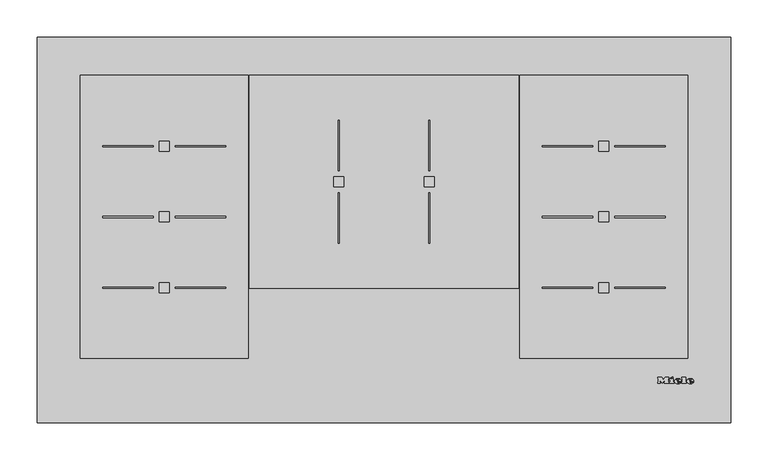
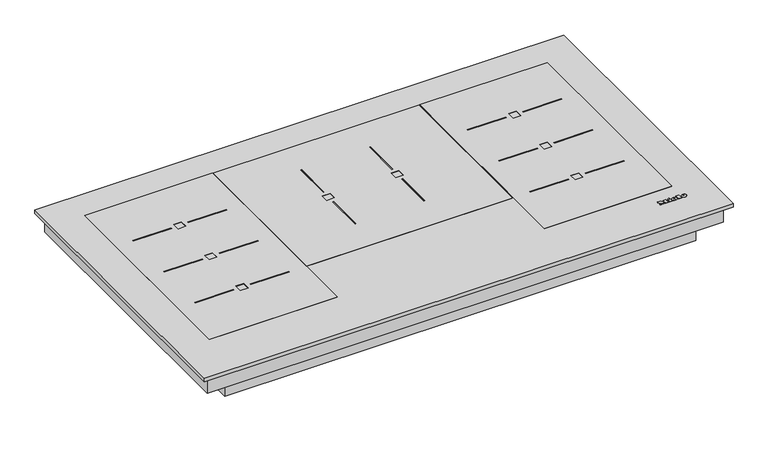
"""IFC4 building model written with IfcOpenShell, lengths in millimetres: proxy geometry, 11218230_IB_KM7999FL : 26799970_IB_11218230_KM7999FL."""

import ifcopenshell
import ifcopenshell.guid

model = None  # the IFC model being written
_history = None  # IfcOwnerHistory: only IFC2X3 demands one
_inside = {}  # id of a spatial element -> (the spatial element, [elements in it])
_under = {}  # id of a project, library or spatial element -> (it, [spatial elements below it])
_declared = {}  # id of a project -> (the project, [libraries it declares])
_typed = {}  # id of a type object -> (the type object, [elements of that type])
_made_of = {}  # id of a material, layer set ... -> (it, [elements and type objects made of it])


def new_model(schema):
    """Start an empty IFC model of exactly this schema.

    Asked for "IFC4X3", IfcOpenShell would pick the latest addendum, in which some entities
    have other attributes; the version numbers below select the first issue.
    IFC2X3 requires an IfcOwnerHistory on every rooted entity: one is made here for all.
    """
    global model, _history
    if schema == "IFC4X3":
        model = ifcopenshell.file(schema_version=(4, 3, 0, 0))
    else:
        model = ifcopenshell.file(schema=schema)
    _inside.clear()
    _under.clear()
    _declared.clear()
    _typed.clear()
    _made_of.clear()
    _history = None
    if model.schema == "IFC2X3":
        org = make("IfcOrganization", Name="unknown")
        user = make(
            "IfcPersonAndOrganization",
            ThePerson=make("IfcPerson", FamilyName="unknown"),
            TheOrganization=org,
        )
        app = make(
            "IfcApplication",
            ApplicationDeveloper=org,
            Version="unknown",
            ApplicationFullName="unknown",
            ApplicationIdentifier="unknown",
        )
        _history = make(
            "IfcOwnerHistory",
            OwningUser=user,
            OwningApplication=app,
            ChangeAction="ADDED",
            CreationDate=0,
        )
    return model


def make(cls, **values):
    """One entity of the class cls with the attributes given. An attribute that is None is left unset."""
    return model.create_entity(
        cls, **{name: value for name, value in values.items() if value is not None}
    )


def rooted(cls, **values):
    """An entity with a GlobalId (a new one), such as an element, a storey or a relation."""
    return make(cls, GlobalId=ifcopenshell.guid.new(), OwnerHistory=_history, **values)


def si_unit(unit_type, name, prefix=None):
    """IfcSIUnit, for example si_unit("LENGTHUNIT", "METRE", prefix="MILLI")."""
    return make("IfcSIUnit", UnitType=unit_type, Prefix=prefix, Name=name)


def assignment(units):
    """IfcUnitAssignment: the units of a project."""
    return None if units is None else make("IfcUnitAssignment", Units=units)


def point(xyz):
    """IfcCartesianPoint."""
    return None if xyz is None else make("IfcCartesianPoint", Coordinates=xyz)


def direction(xyz):
    """IfcDirection."""
    return None if xyz is None else make("IfcDirection", DirectionRatios=xyz)


def frame(location, z_axis=None, x_axis=None):
    """IfcAxis2Placement3D, a coordinate frame: its origin and axes. An axis left out is left unset."""
    return make(
        "IfcAxis2Placement3D",
        Location=point(location),
        Axis=direction(z_axis),
        RefDirection=direction(x_axis),
    )


def frame_2d(location, x_axis=None):
    """IfcAxis2Placement2D, a coordinate frame in the plane: its origin and x axis."""
    return make(
        "IfcAxis2Placement2D", Location=point(location), RefDirection=direction(x_axis)
    )


def origin():
    """The frame at (0, 0, 0) with its axes left unset."""
    return frame((0.0, 0.0, 0.0))


def origin_with_axes():
    """The frame at (0, 0, 0) with the z axis (0, 0, 1) and the x axis (1, 0, 0) written out."""
    return frame((0.0, 0.0, 0.0), z_axis=(0.0, 0.0, 1.0), x_axis=(1.0, 0.0, 0.0))


def place(relative_to, where):
    """IfcLocalPlacement: puts the frame where relative to a parent placement (None: the world)."""
    return make(
        "IfcLocalPlacement", PlacementRelTo=relative_to, RelativePlacement=where
    )


def context(
    kind, dimensions, precision=None, world=None, true_north=None, identifier=None
):
    """IfcGeometricRepresentationContext, for example the 3D "Model" context."""
    return make(
        "IfcGeometricRepresentationContext",
        ContextIdentifier=identifier,
        ContextType=kind,
        CoordinateSpaceDimension=dimensions,
        Precision=precision,
        WorldCoordinateSystem=world,
        TrueNorth=true_north,
    )


def project(units=None, contexts=None):
    """IfcProject with its units and contexts."""
    return rooted(
        "IfcProject",
        Name="project",
        RepresentationContexts=contexts,
        UnitsInContext=assignment(units),
    )


def spatial(cls, under=None, at=None, **own):
    """A site, building, storey or space (cls), placed at a placement, below another one or the project."""
    s = rooted(cls, ObjectPlacement=at, **own)
    if under is not None:
        _under.setdefault(under.id(), (under, []))[1].append(s)
    return s


def polyline(points):
    """IfcPolyline through the points."""
    return make("IfcPolyline", Points=[point(p) for p in points])


def circle_curve(where, radius):
    """IfcCircle in the frame where."""
    return make("IfcCircle", Position=where, Radius=radius)


def ellipse_curve(where, semi_axis1, semi_axis2):
    """IfcEllipse in the frame where."""
    return make(
        "IfcEllipse", Position=where, SemiAxis1=semi_axis1, SemiAxis2=semi_axis2
    )


def trimmed(basis, trim1, trim2, sense, master):
    """IfcTrimmedCurve: the piece of a basis curve between two trims."""
    return make(
        "IfcTrimmedCurve",
        BasisCurve=basis,
        Trim1=trim1,
        Trim2=trim2,
        SenseAgreement=sense,
        MasterRepresentation=master,
    )


def segment(curve, same_sense, transition):
    """IfcCompositeCurveSegment."""
    return make(
        "IfcCompositeCurveSegment",
        Transition=transition,
        SameSense=same_sense,
        ParentCurve=curve,
    )


def composite_curve(segments, self_intersect=None):
    """IfcCompositeCurve: segments joined end to end."""
    return make("IfcCompositeCurve", Segments=segments, SelfIntersect=self_intersect)


def outline(outer, holes=None, kind="AREA"):
    """IfcArbitraryClosedProfileDef: a profile drawn as a closed curve; with holes, ...WithVoids."""
    if holes is None:
        return make("IfcArbitraryClosedProfileDef", ProfileType=kind, OuterCurve=outer)
    return make(
        "IfcArbitraryProfileDefWithVoids",
        ProfileType=kind,
        OuterCurve=outer,
        InnerCurves=holes,
    )


def extrude(swept, where, along, depth):
    """IfcExtrudedAreaSolid: the profile swept, set in the frame where, extruded along a direction by depth."""
    return make(
        "IfcExtrudedAreaSolid",
        SweptArea=swept,
        Position=where,
        ExtrudedDirection=direction(along),
        Depth=depth,
    )


def faces_of(points, faces, orient=None, outer=None):
    """IfcFace entities. A face is a list of loops; a loop is a list of indices into points, from 0.

    orient and outer hold one flag for each loop. By default every Orientation is true, the
    first loop of a face is its IfcFaceOuterBound and the others are IfcFaceBound.
    """
    made = []
    for i, loops in enumerate(faces):
        bounds = []
        for j, loop in enumerate(loops):
            is_outer = j == 0 if outer is None else outer[i][j]
            bounds.append(
                make(
                    "IfcFaceOuterBound" if is_outer else "IfcFaceBound",
                    Bound=make("IfcPolyLoop", Polygon=[points[k] for k in loop]),
                    Orientation=True if orient is None else orient[i][j],
                )
            )
        made.append(make("IfcFace", Bounds=bounds))
    return made


def faceted_brep(points, faces, orient=None, outer=None, voids=None):
    """IfcFacetedBrep: a solid bounded by flat faces; with voids (closed shells), ...WithVoids."""
    shared = [point(p) for p in points]
    hull = make("IfcClosedShell", CfsFaces=faces_of(shared, faces, orient, outer))
    if voids is None:
        return make("IfcFacetedBrep", Outer=hull)
    return make(
        "IfcFacetedBrepWithVoids",
        Outer=hull,
        Voids=[
            make(cls, CfsFaces=faces_of(shared, fs, o, b)) for cls, fs, o, b in voids
        ],
    )


def shape(context_of_items, identifier, shape_type, items):
    """IfcShapeRepresentation: the items that make up one representation, for example the "Body"."""
    return make(
        "IfcShapeRepresentation",
        ContextOfItems=context_of_items,
        RepresentationIdentifier=identifier,
        RepresentationType=shape_type,
        Items=items,
    )


def source(mapping_origin, context_of_items, identifier, shape_type, items):
    """IfcRepresentationMap: a shape defined once, which mapped items show again and again."""
    return make(
        "IfcRepresentationMap",
        MappingOrigin=mapping_origin,
        MappedRepresentation=shape(context_of_items, identifier, shape_type, items),
    )


def transform(
    local_origin,
    x_axis=None,
    y_axis=None,
    z_axis=None,
    scale=None,
    scale2=None,
    scale3=None,
    uniform=True,
):
    """IfcCartesianTransformationOperator3D, or its non-uniform kind. x_axis, y_axis, z_axis: its Axis1, 2, 3."""
    if uniform:
        return make(
            "IfcCartesianTransformationOperator3D",
            Axis1=direction(x_axis),
            Axis2=direction(y_axis),
            LocalOrigin=point(local_origin),
            Scale=scale,
            Axis3=direction(z_axis),
        )
    return make(
        "IfcCartesianTransformationOperator3DnonUniform",
        Axis1=direction(x_axis),
        Axis2=direction(y_axis),
        LocalOrigin=point(local_origin),
        Scale=scale,
        Axis3=direction(z_axis),
        Scale2=scale2,
        Scale3=scale3,
    )


def mapped(mapping_source, mapping_target):
    """IfcMappedItem: shows the shape of a source again, moved by a transform."""
    return make(
        "IfcMappedItem", MappingSource=mapping_source, MappingTarget=mapping_target
    )


def made_of(thing, what):
    """Note that an element or type object is made of a material, layer set ...; save() writes the relation."""
    if what is not None:
        _made_of.setdefault(what.id(), (what, []))[1].append(thing)
    return thing


def element(
    cls,
    number,
    at=None,
    inside=None,
    cuts=None,
    type_object=None,
    material=None,
    context=None,
    identifier="Body",
    shape_type=None,
    held_by="IfcProductDefinitionShape",
    body=None,
    shapes=None,
    **own,
):
    """One element of the class cls, such as IfcWall. Its Tag is "e" and its number.

    at: its placement. inside: the storey or other place that contains it. cuts: it is an
    opening in that element (IfcRelVoidsElement). A single representation is given by context,
    identifier, shape_type and body (its items); several are given by shapes. held_by: the class
    of the entity that holds the representations. save() writes the other relations.
    """
    e = rooted(cls, Tag="e%d" % number, ObjectPlacement=at, **own)
    if body is not None:
        shapes = [shape(context, identifier, shape_type, body)]
    if shapes is not None:
        e.Representation = make(held_by, Representations=shapes)
    if inside is not None:
        _inside.setdefault(inside.id(), (inside, []))[1].append(e)
    if cuts is not None:
        rooted(
            "IfcRelVoidsElement", RelatingBuildingElement=cuts, RelatedOpeningElement=e
        )
    if type_object is not None:
        _typed.setdefault(type_object.id(), (type_object, []))[1].append(e)
    return made_of(e, material)


def aggregate(whole, parts):
    """IfcRelAggregates: a whole, such as a stair, and the parts it consists of."""
    return rooted("IfcRelAggregates", RelatingObject=whole, RelatedObjects=parts)


def save(model, path):
    """Write the relations noted so far, then the file.

    IfcRelAggregates (storeys below a building ...), IfcRelContainedInSpatialStructure (elements
    in a storey), IfcRelDefinesByType, IfcRelAssociatesMaterial and IfcRelDeclares: one each for
    every whole, place, type object, material and project.
    """
    for whole, parts in _under.values():
        aggregate(whole, parts)
    for where, things in _inside.values():
        rooted(
            "IfcRelContainedInSpatialStructure",
            RelatedElements=things,
            RelatingStructure=where,
        )
    for kind, things in _typed.values():
        rooted("IfcRelDefinesByType", RelatedObjects=things, RelatingType=kind)
    for what, things in _made_of.values():
        rooted("IfcRelAssociatesMaterial", RelatedObjects=things, RelatingMaterial=what)
    for by, libraries in _declared.values():
        rooted("IfcRelDeclares", RelatingContext=by, RelatedDefinitions=libraries)
    model.write(path)


def plane_surface(at):
    """IfcPlane: the flat surface through the origin of the frame at, square to its z axis."""
    return make("IfcPlane", Position=at)


def cylinder_surface(at, radius):
    """IfcCylindricalSurface: all points at the distance radius from the z axis of the frame at."""
    return make("IfcCylindricalSurface", Position=at, Radius=radius)


def revolved_surface(curve, axis_point, axis_direction):
    """IfcSurfaceOfRevolution: the curve turned about the line through axis_point along axis_direction."""
    return make(
        "IfcSurfaceOfRevolution",
        SweptCurve=make("IfcArbitraryOpenProfileDef", ProfileType="CURVE", Curve=curve),
        AxisPosition=make("IfcAxis1Placement", Location=point(axis_point), Axis=direction(axis_direction)),
    )


def extruded_surface(curve, direction_of_extrusion, depth):
    """IfcSurfaceOfLinearExtrusion: the curve pushed along a direction by depth."""
    return make(
        "IfcSurfaceOfLinearExtrusion",
        SweptCurve=make("IfcArbitraryOpenProfileDef", ProfileType="CURVE", Curve=curve),
        ExtrudedDirection=direction(direction_of_extrusion),
        Depth=depth,
    )


def advanced_brep(points, edges, surfaces, faces):
    """IfcAdvancedBrep: a solid bounded by faces that lie on surfaces and meet in shared edges.

    An edge is (start, end): straight between two places in points (the first is 0);
    or (start, end, curve); or (start, end, curve, False) where it runs against its curve.
    A face is (place in surfaces, loops), or (place, loops, False) where it looks against
    its surface's normal. A loop lists edges by number (the first is 1), with a minus sign
    where the edge is run from its end to its start. The first loop is the outer one.
    """
    corners = [point(p) for p in points]
    vertices = [make("IfcVertexPoint", VertexGeometry=c) for c in corners]
    made = []
    for start, end, *more in edges:
        made.append(
            make(
                "IfcEdgeCurve",
                EdgeStart=vertices[start],
                EdgeEnd=vertices[end],
                EdgeGeometry=more[0] if more else make("IfcPolyline", Points=[corners[start], corners[end]]),
                SameSense=more[1] if len(more) > 1 else True,
            )
        )
    hull = []
    for where, loops, *sense in faces:
        bounds = []
        for j, loop in enumerate(loops):
            ring = [make("IfcOrientedEdge", EdgeElement=made[abs(k) - 1], Orientation=k > 0) for k in loop]
            bounds.append(
                make(
                    "IfcFaceOuterBound" if j == 0 else "IfcFaceBound",
                    Bound=make("IfcEdgeLoop", EdgeList=ring),
                    Orientation=True,
                )
            )
        hull.append(make("IfcAdvancedFace", Bounds=bounds, FaceSurface=surfaces[where], SameSense=sense[0] if sense else True))
    return make("IfcAdvancedBrep", Outer=make("IfcClosedShell", CfsFaces=hull))


def specialty_equipment_02190315(model_context):
    return source(origin(), model_context, "Body", "SolidModel", [
        advanced_brep(
        [(412.46, 54.6948833, 6.4802537), (412.46, 55.5028828, 6.4811551), (417.812, 55.5028828, 6.4811551), (408.5, 55.5028828, 6.4811551), (410.7, 52.7988845, 6.4781386), (417.676, 54.6948833, 6.4802537), (415.26, 54.6948833, 6.4802537), (413.356, 53.7988838, 6.4792542), (412.46, 56.5268821, 6.4822974), (412.46, 57.3988816, 6.4832701), (413.828, 57.3988816, 6.4832701), (413.828, 56.5268821, 6.4822974), (412.46, 54.6959988, 5.4802543), (413.356, 53.7999994, 5.4792548), (415.26, 54.6959988, 5.4802543), (417.676, 54.6959988, 5.4802543), (410.7, 52.8, 5.4781393), (408.5, 55.5039983, 5.4811557), (417.812, 55.5039983, 5.4811557), (412.46, 55.5039983, 5.4811557), (412.46, 56.5279977, 5.482298), (413.828, 56.5279977, 5.482298), (413.828, 57.3999971, 5.4832707), (412.46, 57.3999971, 5.4832707)],
        [
            (0, 1),
            (1, 2),
            (2, 3, ellipse_curve(frame((413.156, 55.5028828, 6.4811551), z_axis=(0.0, -0.0011155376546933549, 0.9999993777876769), x_axis=(-1.0, 0.0, 0.0)), 4.656, 3.848)),
            (3, 4, circle_curve(frame((411.5960436, 55.7748826, 6.4814585), z_axis=(0.0, -0.0011155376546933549, 0.9999993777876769), x_axis=(0.0, -0.9999993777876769, -0.0011155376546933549)), 3.1079688)),
            (4, 5, circle_curve(frame((413.0627936, 57.8868813, 6.4838145), z_axis=(0.0, -0.0011155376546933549, 0.9999993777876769), x_axis=(0.0, -0.9999993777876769, -0.0011155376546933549)), 5.6098607)),
            (5, 6),
            (6, 7, circle_curve(frame((413.7470588, 55.4388828, 6.4810837), z_axis=(0.0, 0.0011155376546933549, -0.9999993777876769), x_axis=(0.0, -0.9999993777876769, -0.0011155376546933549)), 1.6859795)),
            (7, 0, circle_curve(frame((413.356, 54.6948833, 6.4802537), z_axis=(0.0, 0.0011155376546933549, -0.9999993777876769), x_axis=(0.0, -0.9999993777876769, -0.0011155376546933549)), 0.896)),
            (8, 9),
            (9, 10, circle_curve(frame((413.144, 57.3988816, 6.4832701), z_axis=(0.0, 0.0011155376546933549, -0.9999993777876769), x_axis=(0.0, -0.9999993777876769, -0.0011155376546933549)), 0.684)),
            (10, 11),
            (11, 8),
            (12, 13, circle_curve(frame((413.356, 54.6959988, 5.4802543), z_axis=(0.0, -0.0011155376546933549, 0.9999993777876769), x_axis=(0.0, -0.9999993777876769, -0.0011155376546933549)), 0.896)),
            (13, 14, circle_curve(frame((413.7470588, 55.4399984, 5.4810843), z_axis=(0.0, -0.0011155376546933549, 0.9999993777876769), x_axis=(0.0, -0.9999993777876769, -0.0011155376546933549)), 1.6859795)),
            (14, 15),
            (15, 16, circle_curve(frame((413.0627936, 57.8879968, 5.4838151), z_axis=(0.0, 0.0011155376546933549, -0.9999993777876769), x_axis=(0.0, -0.9999993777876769, -0.0011155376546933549)), 5.6098607)),
            (16, 17, circle_curve(frame((411.5960436, 55.7759981, 5.4814591), z_axis=(0.0, 0.0011155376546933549, -0.9999993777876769), x_axis=(0.0, -0.9999993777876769, -0.0011155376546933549)), 3.1079688)),
            (17, 18, ellipse_curve(frame((413.156, 55.5039983, 5.4811557), z_axis=(0.0, 0.0011155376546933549, -0.9999993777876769), x_axis=(-1.0, 0.0, 0.0)), 4.656, 3.848)),
            (18, 19),
            (19, 12),
            (20, 21),
            (21, 22),
            (22, 23, circle_curve(frame((413.144, 57.3999971, 5.4832707), z_axis=(0.0, -0.0011155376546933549, 0.9999993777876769), x_axis=(0.0, -0.9999993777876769, -0.0011155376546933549)), 0.684)),
            (23, 20),
            (0, 12),
            (19, 1),
            (18, 2),
            (5, 15),
            (14, 6),
            (17, 3),
            (13, 7),
            (16, 4),
            (8, 20),
            (23, 9),
            (22, 10),
            (21, 11),
        ],
        [
            plane_surface(frame((412.46, 55.5028828, 6.4811551), z_axis=(0.0, -0.0011155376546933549, 0.9999993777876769), x_axis=(0.0, 0.9999993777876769, 0.0011155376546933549))),
            plane_surface(frame((412.46, 55.5039983, 5.4811557), z_axis=(0.0, 0.0011155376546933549, -0.9999993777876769), x_axis=(0.0, -0.9999993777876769, -0.0011155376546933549))),
            plane_surface(frame((412.46, 54.6948833, 6.4802537), z_axis=(1.0000000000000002, 0.0, 0.0), x_axis=(0.0, 0.001115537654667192, -0.999999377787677))),
            plane_surface(frame((412.46, 55.5028828, 6.4811551), z_axis=(0.0, -0.999999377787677, -0.001115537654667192), x_axis=(0.0, 0.001115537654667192, -0.999999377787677))),
            plane_surface(frame((417.676, 54.6948833, 6.4802537), z_axis=(0.0, 0.999999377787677, 0.001115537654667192), x_axis=(0.0, 0.001115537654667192, -0.999999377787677))),
            extruded_surface(trimmed(ellipse_curve(frame((413.156, 55.5051139, 4.4811563), z_axis=(0.0, -0.0011155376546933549, 0.9999993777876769), x_axis=(-1.0, 0.0, 0.0)), 4.656, 3.848), [point((417.812, 55.5051139, 4.4811563))], [point((408.5, 55.5051139, 4.4811563))], True, "CARTESIAN"), (0.0, -0.001115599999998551, 0.9999994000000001), 1.00000002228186),
            revolved_surface(polyline([(413.7470588, 53.75401994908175, 5.479203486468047), (413.7470588, 53.75290441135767, 6.4792029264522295)]), (413.7470588, 55.4399984, 5.4810843), (0.0, 0.0011155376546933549, -0.9999993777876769)),
            revolved_surface(polyline([(413.356, 53.79999935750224, 5.479254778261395), (413.356, 53.79888381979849, 6.479254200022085)]), (413.356, 54.6959988, 5.4802543), (0.0, 0.0011155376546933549, -0.9999993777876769)),
            cylinder_surface(frame((411.5960436, 55.7759981, 5.4814591), z_axis=(0.0, -0.0011155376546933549, 0.9999993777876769), x_axis=(0.0, -0.9999993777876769, -0.0011155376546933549)), 3.1079688),
            cylinder_surface(frame((413.0627936, 57.8879968, 5.4838151), z_axis=(0.0, -0.0011155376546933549, 0.9999993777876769), x_axis=(0.0, -0.9999993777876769, -0.0011155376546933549)), 5.6098607),
            plane_surface(frame((412.46, 56.5268821, 6.4822974), z_axis=(1.0000000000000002, 0.0, 0.0), x_axis=(0.0, 0.001115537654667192, -0.999999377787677))),
            revolved_surface(polyline([(413.144, 56.71599752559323, 5.48250767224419), (413.144, 56.714881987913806, 6.482507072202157)]), (413.144, 57.3999971, 5.4832707), (0.0, 0.0011155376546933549, -0.9999993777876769)),
            plane_surface(frame((413.828, 57.3988816, 6.4832701), z_axis=(-1.0000000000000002, 0.0, 0.0), x_axis=(0.0, 0.001115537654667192, -0.999999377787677))),
            plane_surface(frame((413.828, 56.5268821, 6.4822974), z_axis=(0.0, 0.999999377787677, 0.001115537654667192), x_axis=(0.0, 0.001115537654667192, -0.999999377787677))),
        ],
        [
            (0, [[1, 2, 3, 4, 5, 6, 7, 8], [9, 10, 11, 12]]),
            (1, [[13, 14, 15, 16, 17, 18, 19, 20], [21, 22, 23, 24]]),
            (2, [[-1, 25, -20, 26]]),
            (3, [[-2, -26, -19, 27]]),
            (4, [[-6, 28, -15, 29]]),
            (5, [[-3, -27, -18, 30]]),
            (6, [[-7, -29, -14, 31]]),
            (7, [[-8, -31, -13, -25]]),
            (8, [[-4, -30, -17, 32]]),
            (9, [[-5, -32, -16, -28]]),
            (10, [[-9, 33, -24, 34]]),
            (11, [[-10, -34, -23, 35]]),
            (12, [[-11, -35, -22, 36]]),
            (13, [[-12, -36, -21, -33]]),
        ],
    ),
        advanced_brep(
        [(395.764, 54.6948833, 6.4802537), (395.764, 55.5028828, 6.4811551), (401.116, 55.5028828, 6.4811551), (391.804, 55.5028828, 6.4811551), (394.004, 52.7988845, 6.4781386), (400.98, 54.6948833, 6.4802537), (398.564, 54.6948833, 6.4802537), (396.66, 53.7988838, 6.4792542), (395.764, 56.5268821, 6.4822974), (395.764, 57.3988816, 6.4832701), (397.132, 57.3988816, 6.4832701), (397.132, 56.5268821, 6.4822974), (395.764, 54.6959988, 5.4802543), (396.66, 53.7999994, 5.4792548), (398.564, 54.6959988, 5.4802543), (400.98, 54.6959988, 5.4802543), (394.004, 52.8, 5.4781393), (391.804, 55.5039983, 5.4811557), (401.116, 55.5039983, 5.4811557), (395.764, 55.5039983, 5.4811557), (395.764, 56.5279977, 5.482298), (397.132, 56.5279977, 5.482298), (397.132, 57.3999971, 5.4832707), (395.764, 57.3999971, 5.4832707)],
        [
            (0, 1),
            (1, 2),
            (2, 3, ellipse_curve(frame((396.46, 55.5028828, 6.4811551), z_axis=(0.0, -0.0011155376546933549, 0.9999993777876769), x_axis=(-1.0, 0.0, 0.0)), 4.656, 3.848)),
            (3, 4, circle_curve(frame((394.9000436, 55.7748826, 6.4814585), z_axis=(0.0, -0.0011155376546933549, 0.9999993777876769), x_axis=(0.0, -0.9999993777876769, -0.0011155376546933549)), 3.1079688)),
            (4, 5, circle_curve(frame((396.3667936, 57.8868813, 6.4838145), z_axis=(0.0, -0.0011155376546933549, 0.9999993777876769), x_axis=(0.0, -0.9999993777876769, -0.0011155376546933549)), 5.6098607)),
            (5, 6),
            (6, 7, circle_curve(frame((397.0510588, 55.4388828, 6.4810837), z_axis=(0.0, 0.0011155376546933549, -0.9999993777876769), x_axis=(0.0, -0.9999993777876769, -0.0011155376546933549)), 1.6859795)),
            (7, 0, circle_curve(frame((396.66, 54.6948833, 6.4802537), z_axis=(0.0, 0.0011155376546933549, -0.9999993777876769), x_axis=(0.0, -0.9999993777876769, -0.0011155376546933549)), 0.896)),
            (8, 9),
            (9, 10, circle_curve(frame((396.448, 57.3988816, 6.4832701), z_axis=(0.0, 0.0011155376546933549, -0.9999993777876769), x_axis=(0.0, -0.9999993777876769, -0.0011155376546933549)), 0.684)),
            (10, 11),
            (11, 8),
            (12, 13, circle_curve(frame((396.66, 54.6959988, 5.4802543), z_axis=(0.0, -0.0011155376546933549, 0.9999993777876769), x_axis=(0.0, -0.9999993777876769, -0.0011155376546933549)), 0.896)),
            (13, 14, circle_curve(frame((397.0510588, 55.4399984, 5.4810843), z_axis=(0.0, -0.0011155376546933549, 0.9999993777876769), x_axis=(0.0, -0.9999993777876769, -0.0011155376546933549)), 1.6859795)),
            (14, 15),
            (15, 16, circle_curve(frame((396.3667936, 57.8879968, 5.4838151), z_axis=(0.0, 0.0011155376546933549, -0.9999993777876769), x_axis=(0.0, -0.9999993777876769, -0.0011155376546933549)), 5.6098607)),
            (16, 17, circle_curve(frame((394.9000436, 55.7759981, 5.4814591), z_axis=(0.0, 0.0011155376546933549, -0.9999993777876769), x_axis=(0.0, -0.9999993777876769, -0.0011155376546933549)), 3.1079688)),
            (17, 18, ellipse_curve(frame((396.46, 55.5039983, 5.4811557), z_axis=(0.0, 0.0011155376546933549, -0.9999993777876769), x_axis=(-1.0, 0.0, 0.0)), 4.656, 3.848)),
            (18, 19),
            (19, 12),
            (20, 21),
            (21, 22),
            (22, 23, circle_curve(frame((396.448, 57.3999971, 5.4832707), z_axis=(0.0, -0.0011155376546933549, 0.9999993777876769), x_axis=(0.0, -0.9999993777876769, -0.0011155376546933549)), 0.684)),
            (23, 20),
            (0, 12),
            (19, 1),
            (18, 2),
            (5, 15),
            (14, 6),
            (17, 3),
            (13, 7),
            (16, 4),
            (8, 20),
            (23, 9),
            (22, 10),
            (21, 11),
        ],
        [
            plane_surface(frame((395.764, 55.5028828, 6.4811551), z_axis=(0.0, -0.0011155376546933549, 0.9999993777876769), x_axis=(0.0, 0.9999993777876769, 0.0011155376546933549))),
            plane_surface(frame((395.764, 55.5039983, 5.4811557), z_axis=(0.0, 0.0011155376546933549, -0.9999993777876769), x_axis=(0.0, -0.9999993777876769, -0.0011155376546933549))),
            plane_surface(frame((395.764, 54.6948833, 6.4802537), z_axis=(1.0000000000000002, 0.0, 0.0), x_axis=(0.0, 0.001115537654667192, -0.999999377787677))),
            plane_surface(frame((395.764, 55.5028828, 6.4811551), z_axis=(0.0, -0.999999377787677, -0.001115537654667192), x_axis=(0.0, 0.001115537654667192, -0.999999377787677))),
            plane_surface(frame((400.98, 54.6948833, 6.4802537), z_axis=(0.0, 0.999999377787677, 0.001115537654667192), x_axis=(0.0, 0.001115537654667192, -0.999999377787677))),
            extruded_surface(trimmed(ellipse_curve(frame((396.46, 55.5051139, 4.4811563), z_axis=(0.0, -0.0011155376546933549, 0.9999993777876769), x_axis=(-1.0, 0.0, 0.0)), 4.656, 3.848), [point((401.116, 55.5051139, 4.4811563))], [point((391.804, 55.5051139, 4.4811563))], True, "CARTESIAN"), (0.0, -0.001115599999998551, 0.9999994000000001), 1.00000002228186),
            revolved_surface(polyline([(397.0510588, 53.75401994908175, 5.479203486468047), (397.0510588, 53.75290441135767, 6.4792029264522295)]), (397.0510588, 55.4399984, 5.4810843), (0.0, 0.0011155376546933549, -0.9999993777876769)),
            revolved_surface(polyline([(396.66, 53.79999935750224, 5.479254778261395), (396.66, 53.79888381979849, 6.479254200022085)]), (396.66, 54.6959988, 5.4802543), (0.0, 0.0011155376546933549, -0.9999993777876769)),
            cylinder_surface(frame((394.9000436, 55.7759981, 5.4814591), z_axis=(0.0, -0.0011155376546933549, 0.9999993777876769), x_axis=(0.0, -0.9999993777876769, -0.0011155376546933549)), 3.1079688),
            cylinder_surface(frame((396.3667936, 57.8879968, 5.4838151), z_axis=(0.0, -0.0011155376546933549, 0.9999993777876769), x_axis=(0.0, -0.9999993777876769, -0.0011155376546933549)), 5.6098607),
            plane_surface(frame((395.764, 56.5268821, 6.4822974), z_axis=(1.0000000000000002, 0.0, 0.0), x_axis=(0.0, 0.001115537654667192, -0.999999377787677))),
            revolved_surface(polyline([(396.448, 56.71599752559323, 5.48250767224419), (396.448, 56.714881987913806, 6.482507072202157)]), (396.448, 57.3999971, 5.4832707), (0.0, 0.0011155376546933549, -0.9999993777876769)),
            plane_surface(frame((397.132, 57.3988816, 6.4832701), z_axis=(-1.0000000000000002, 0.0, 0.0), x_axis=(0.0, 0.001115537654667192, -0.999999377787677))),
            plane_surface(frame((397.132, 56.5268821, 6.4822974), z_axis=(0.0, 0.999999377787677, 0.001115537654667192), x_axis=(0.0, 0.001115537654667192, -0.999999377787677))),
        ],
        [
            (0, [[1, 2, 3, 4, 5, 6, 7, 8], [9, 10, 11, 12]]),
            (1, [[13, 14, 15, 16, 17, 18, 19, 20], [21, 22, 23, 24]]),
            (2, [[-1, 25, -20, 26]]),
            (3, [[-2, -26, -19, 27]]),
            (4, [[-6, 28, -15, 29]]),
            (5, [[-3, -27, -18, 30]]),
            (6, [[-7, -29, -14, 31]]),
            (7, [[-8, -31, -13, -25]]),
            (8, [[-4, -30, -17, 32]]),
            (9, [[-5, -32, -16, -28]]),
            (10, [[-9, 33, -24, 34]]),
            (11, [[-10, -34, -23, 35]]),
            (12, [[-11, -35, -22, 36]]),
            (13, [[-12, -36, -21, -33]]),
        ],
    ),
        extrude(outline(polyline([(0.0, 0.0), (-0.0109086, -2.9993294), (-1.4390415, -2.9920868), (-1.4315307, 0.0), (0.0, 0.0)])), frame((387.02, 60.3279953, 5.486537), z_axis=(0.0, -0.001115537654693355, 0.999999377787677), x_axis=(-0.4247202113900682, 0.9053240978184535, 0.0010099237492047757)), (0.0, 0.0, 1.0), 1.0),
        extrude(outline(polyline([(-0.4933908, 2.4141097), (-2.7800844, -2.4601583), (-7.0459741, -0.4588767), (-7.4401145, -1.299018), (-8.6568709, -0.728194), (-5.9760369, 4.9862153), (-4.7592805, 4.4153913), (-5.1636142, 3.5535222), (-2.1941493, 2.1604399), (-1.7898157, 3.022309), (-0.4933908, 2.4141097)])), frame((387.02, 60.3279953, 5.486537), z_axis=(0.0, -0.001115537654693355, 0.999999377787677), x_axis=(-0.4247202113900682, 0.9053240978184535, 0.0010099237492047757)), (0.0, 0.0, 1.0), 1.0),
        extrude(outline(polyline([(0.0, 0.0), (0.0, -1.304), (-5.504, -1.304), (-5.504, 5.3519999), (-6.488, 5.3519999), (-6.488, 6.696), (0.0, 6.696), (0.0, 5.3519999), (-0.96, 5.3519999), (-0.96, 0.0), (0.0, 0.0)])), frame((401.564, 59.4959958, 5.4856089), z_axis=(0.0, -0.0011155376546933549, 0.9999993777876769), x_axis=(-1.0, 0.0, 0.0)), (0.0, 0.0, 1.0), 1.0),
        extrude(outline(polyline([(0.0, 0.0), (0.0, -1.304), (-5.576, -1.304), (-7.92, 1.696), (-10.256, -1.304), (-15.128, -1.304), (-15.128, 0.0), (-14.112, 0.0), (-14.112, 5.3519999), (-15.128, 5.3519999), (-15.128, 6.696), (-8.744, 6.696), (-8.744, 5.3519999), (-9.728, 5.3519999), (-9.728, 1.8807777), (-6.136, 6.696), (-2.56, 1.9488752), (-2.56, 5.3519999), (-3.52, 5.3519999), (-3.52, 6.696), (0.0, 6.696), (0.0, 5.3519999), (-0.968, 5.3519999), (-0.968, 0.0), (0.0, 0.0)])), frame((369.1, 59.4959958, 5.4856089), z_axis=(0.0, -0.0011155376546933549, 0.9999993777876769), x_axis=(-1.0, 0.0, 0.0)), (0.0, 0.0, 1.0), 1.0),
        extrude(outline(polyline([(-175.6227397, 460.2), (-183.0, 460.2), (-183.0, 461.4557039), (-176.8784436, 461.4557039), (-176.8784436, 464.7519266), (-182.529111, 464.7519266), (-182.529111, 466.0076304), (-176.8784436, 466.0076304), (-176.8784436, 468.9899271), (-182.843037, 468.9899271), (-182.843037, 470.245631), (-175.6227397, 470.245631), (-175.6227397, 460.2)])), frame((0.0, 0.0, -91.8), z_axis=(0.0, 0.0, 1.0), x_axis=(1.0, 0.0, 0.0)), (0.0, 0.0, 1.0), 1.0),
        extrude(outline(polyline([(-184.8835558, 460.2), (-191.1620752, 460.2), (-191.1620752, 461.4557039), (-186.1392597, 461.4557039), (-186.1392597, 470.245631), (-184.8835558, 470.245631), (-184.8835558, 460.2)])), frame((0.0, 0.0, -91.8), z_axis=(0.0, 0.0, 1.0), x_axis=(1.0, 0.0, 0.0)), (0.0, 0.0, 1.0), 1.0),
        extrude(outline(polyline([(468.0, 520.0), (468.0, 0.0), (-468.0, 0.0), (-468.0, 520.0), (468.0, 520.0)])), origin_with_axes(), (0.0, 0.0, 1.0), 6.0),
        faceted_brep([(457.2, 509.2, 0.0), (-457.2, 509.2, 0.0), (-457.2, 10.8, 0.0), (457.2, 10.8, 0.0), (457.2, 509.2, -31.6), (-457.2, 509.2, -31.6), (-457.2, 10.8, -31.6), (457.2, 10.8, -31.6), (417.2, 494.2, -60.8), (417.2, 25.8, -60.8), (-417.2, 25.8, -60.8), (-417.2, 494.2, -60.8), (417.2, 494.2, -31.6), (-417.2, 494.2, -31.6), (-417.2, 25.8, -31.6), (417.2, 25.8, -31.6)], [[[0, 1, 2, 3]], [[1, 0, 4, 5]], [[2, 1, 5, 6]], [[3, 2, 6, 7]], [[0, 3, 7, 4]], [[8, 9, 10, 11]], [[4, 7, 6, 5], [12, 13, 14, 15]], [[8, 11, 13, 12]], [[11, 10, 14, 13]], [[10, 9, 15, 14]], [[9, 8, 12, 15]]]),
        extrude(outline(composite_curve([segment(trimmed(circle_curve(frame_2d((-183.0, 465.2)), 7.5), [point((-183.0, 472.7))], [point((-183.0, 457.7))], False, "CARTESIAN"), True, "CONTINUOUS"), segment(trimmed(circle_curve(frame_2d((-183.0, 465.2)), 7.5), [point((-183.0, 457.7))], [point((-183.0, 472.7))], False, "CARTESIAN"), True, "CONTINUOUS")], self_intersect=False)), frame((0.0, 0.0, -90.8), z_axis=(0.0, 0.0, 1.0), x_axis=(1.0, 0.0, 0.0)), (0.0, 0.0, 1.0), 30.0),
        extrude(outline(polyline([(-183.4, 468.4), (-183.4, 86.4), (-409.6, 86.4), (-409.6, 468.4), (-183.4, 468.4)]), holes=[polyline([(-289.7, 379.7), (-303.3, 379.7), (-303.3, 366.1), (-289.7, 366.1), (-289.7, 379.7)]), polyline([(-289.7, 284.2), (-303.3, 284.2), (-303.3, 270.6), (-289.7, 270.6), (-289.7, 284.2)]), polyline([(-289.7, 188.7), (-303.3, 188.7), (-303.3, 175.1), (-289.7, 175.1), (-289.7, 188.7)]), polyline([(-379.6, 182.7), (-379.6, 181.1), (-311.5, 181.1), (-311.5, 182.7), (-379.6, 182.7)]), polyline([(-213.4, 182.7), (-281.5, 182.7), (-281.5, 181.1), (-213.4, 181.1), (-213.4, 182.7)]), polyline([(-213.4, 278.2), (-281.5, 278.2), (-281.5, 276.6), (-213.4, 276.6), (-213.4, 278.2)]), polyline([(-311.5, 278.2), (-379.6, 278.2), (-379.6, 276.6), (-311.5, 276.6), (-311.5, 278.2)]), polyline([(-311.5, 373.7), (-379.6, 373.7), (-379.6, 372.1), (-311.5, 372.1), (-311.5, 373.7)]), polyline([(-213.4, 373.7), (-281.5, 373.7), (-281.5, 372.1), (-213.4, 372.1), (-213.4, 373.7)])]), frame((0.0, 0.0, 6.0), z_axis=(0.0, 0.0, 1.0), x_axis=(1.0, 0.0, 0.0)), (0.0, 0.0, 1.0), 1.0),
        extrude(outline(polyline([(181.8, 468.4), (181.8, 181.4), (-181.8, 181.4), (-181.8, 468.4), (181.8, 468.4)]), holes=[polyline([(67.8, 331.7), (54.2, 331.7), (54.2, 318.1), (67.8, 318.1), (67.8, 331.7)]), polyline([(-54.2, 331.7), (-67.8, 331.7), (-67.8, 318.1), (-54.2, 318.1), (-54.2, 331.7)]), polyline([(-60.2, 408.0), (-61.8, 408.0), (-61.8, 339.9), (-60.2, 339.9), (-60.2, 408.0)]), polyline([(-60.2, 309.9), (-61.8, 309.9), (-61.8, 241.8), (-60.2, 241.8), (-60.2, 309.9)]), polyline([(61.8, 309.9), (60.2, 309.9), (60.2, 241.8), (61.8, 241.8), (61.8, 309.9)]), polyline([(61.8, 408.0), (60.2, 408.0), (60.2, 339.9), (61.8, 339.9), (61.8, 408.0)])]), frame((0.0, 0.0, 6.0), z_axis=(0.0, 0.0, 1.0), x_axis=(1.0, 0.0, 0.0)), (0.0, 0.0, 1.0), 1.0),
        extrude(outline(polyline([(409.6, 86.4), (183.4, 86.4), (183.4, 468.4), (409.6, 468.4), (409.6, 86.4)]), holes=[polyline([(303.3, 379.7), (289.7, 379.7), (289.7, 366.1), (303.3, 366.1), (303.3, 379.7)]), polyline([(303.3, 284.2), (289.7, 284.2), (289.7, 270.6), (303.3, 270.6), (303.3, 284.2)]), polyline([(303.3, 188.7), (289.7, 188.7), (289.7, 175.1), (303.3, 175.1), (303.3, 188.7)]), polyline([(281.5, 373.7), (213.4, 373.7), (213.4, 372.1), (281.5, 372.1), (281.5, 373.7)]), polyline([(379.6, 373.7), (311.5, 373.7), (311.5, 372.1), (379.6, 372.1), (379.6, 373.7)]), polyline([(379.6, 278.2), (311.5, 278.2), (311.5, 276.6), (379.6, 276.6), (379.6, 278.2)]), polyline([(281.5, 278.2), (213.4, 278.2), (213.4, 276.6), (281.5, 276.6), (281.5, 278.2)]), polyline([(281.5, 182.7), (213.4, 182.7), (213.4, 181.1), (281.5, 181.1), (281.5, 182.7)]), polyline([(379.6, 182.7), (311.5, 182.7), (311.5, 181.1), (379.6, 181.1), (379.6, 182.7)])]), frame((0.0, 0.0, 6.0), z_axis=(0.0, 0.0, 1.0), x_axis=(1.0, 0.0, 0.0)), (0.0, 0.0, 1.0), 1.0),
    ])


if __name__ == "__main__":
    model = new_model("IFC4")
    model_context = context("Model", 3, world=origin())
    ifc_project = project(units=[si_unit("LENGTHUNIT", "METRE", prefix="MILLI")], contexts=[model_context])
    site = spatial("IfcSite", under=ifc_project)
    building = spatial("IfcBuilding", under=site)
    placement = place(None, origin())
    specialty_equipment_shape = specialty_equipment_02190315(model_context)
    element("IfcBuildingElementProxy", 1, Name="11218230_IB_KM7999FL : 26799970_IB_11218230_KM7999FL", ObjectType="11218230_IB_KM7999FL : 26799970_IB_11218230_KM7999FL", at=placement, inside=building, context=model_context, shape_type="MappedRepresentation", body=[
        mapped(specialty_equipment_shape, transform((0.0, 0.0, 0.0), x_axis=(1.0, 0.0, 0.0), y_axis=(0.0, 1.0, 0.0), z_axis=(0.0, 0.0, 1.0))),
    ])
    save(model, "model.ifc")
